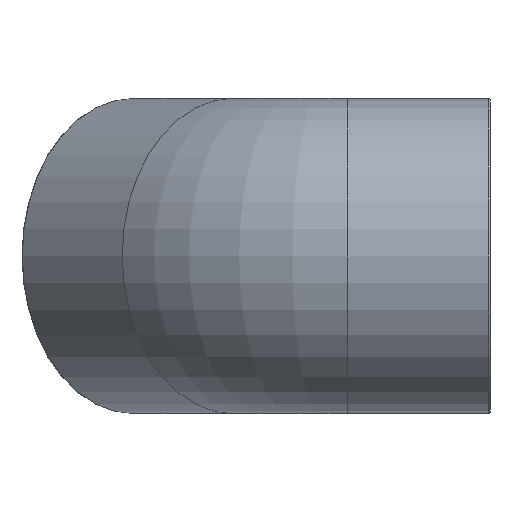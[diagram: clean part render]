
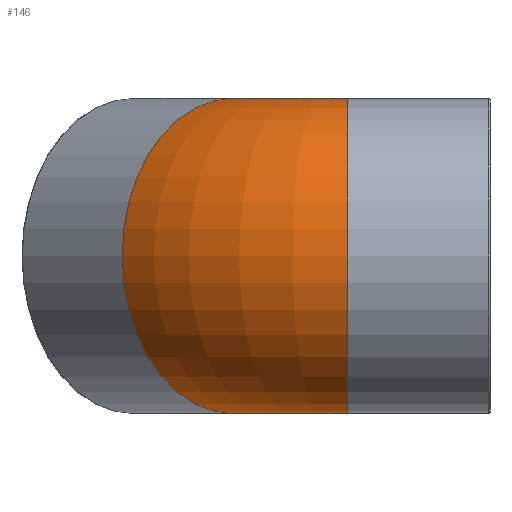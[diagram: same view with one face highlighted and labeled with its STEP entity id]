
A CAD part, left-side view. The second image highlights one B-rep face of the part: STEP entity #146.
In plain terms, the highlighted toroidal (fillet/blend) face has major radius 65.5 mm and minor radius 64 mm.
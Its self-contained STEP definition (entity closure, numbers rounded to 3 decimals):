
#36=FACE_BOUND('',#72,.T.);
#48=FACE_OUTER_BOUND('',#71,.T.);
#71=EDGE_LOOP('',(#129));
#72=EDGE_LOOP('',(#130));
#75=CIRCLE('',#153,64.);
#79=CIRCLE('',#160,64.);
#85=VERTEX_POINT('',#224);
#89=VERTEX_POINT('',#235);
#97=EDGE_CURVE('',#85,#85,#75,.T.);
#101=EDGE_CURVE('',#89,#89,#79,.T.);
#129=ORIENTED_EDGE('',*,*,#101,.F.);
#130=ORIENTED_EDGE('',*,*,#97,.T.);
#134=TOROIDAL_SURFACE('',#170,65.5,64.);
#146=ADVANCED_FACE('',(#48,#36),#134,.T.);
#153=AXIS2_PLACEMENT_3D('',#225,#181,#182);
#160=AXIS2_PLACEMENT_3D('',#236,#195,#196);
#170=AXIS2_PLACEMENT_3D('',#383,#215,#216);
#181=DIRECTION('center_axis',(0.,1.,0.));
#182=DIRECTION('ref_axis',(1.,0.,0.));
#195=DIRECTION('center_axis',(0.707,0.707,0.));
#196=DIRECTION('ref_axis',(0.707,-0.707,0.));
#215=DIRECTION('center_axis',(0.,0.,-1.));
#216=DIRECTION('ref_axis',(-1.,0.,0.));
#224=CARTESIAN_POINT('',(-64.,57.869,0.));
#225=CARTESIAN_POINT('Origin',(0.,57.869,0.));
#235=CARTESIAN_POINT('',(-26.07,149.439,0.));
#236=CARTESIAN_POINT('Origin',(19.185,104.185,0.));
#383=CARTESIAN_POINT('Origin',(65.5,57.869,0.));
